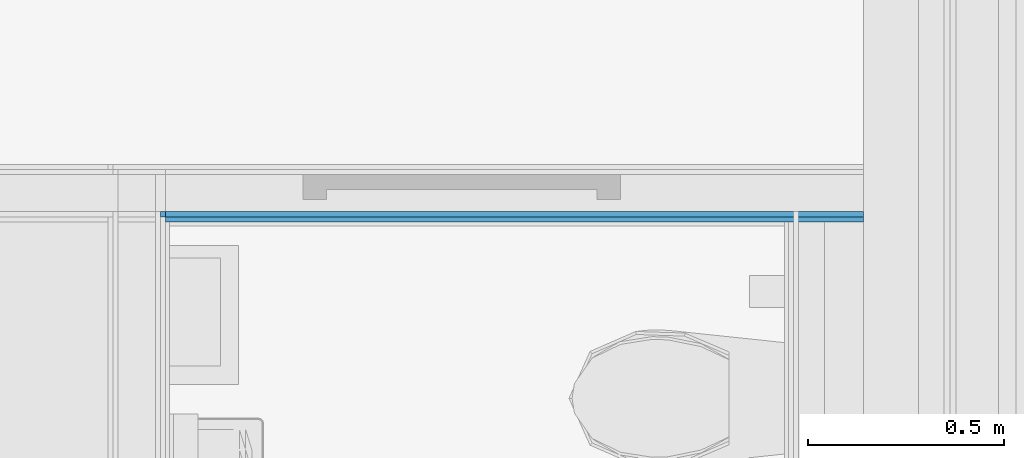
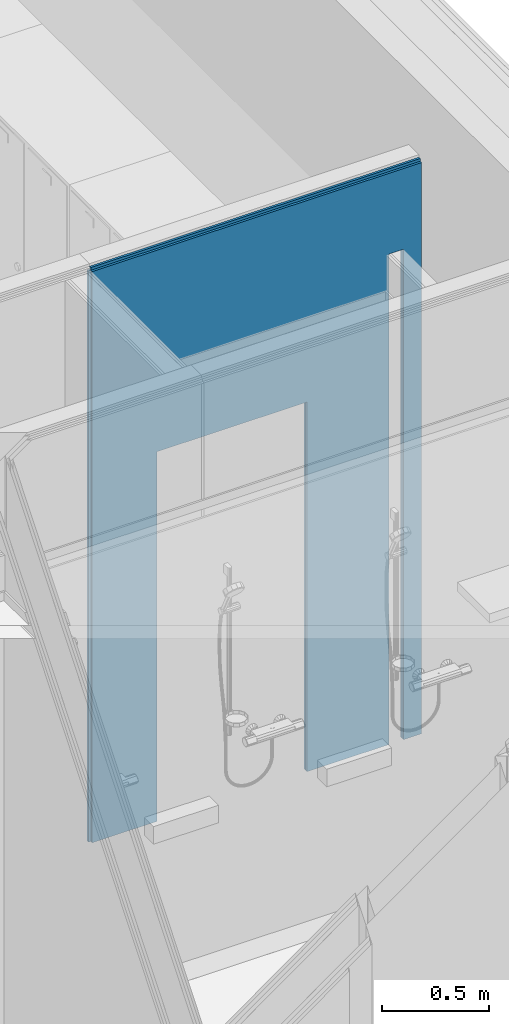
# One storey, part 84 of 153: 2 building element parts, 1 opening, 1 element without a shape of its own.
"""IFC2X3 building model written with IfcOpenShell, lengths in millimetres."""

from ifc_helpers import new_model, entity, si_unit, converted_unit, derived_unit, money_unit, direction, frame, origin_with_axes, place, context, subcontext, project, spatial, faceted_brep, material, type_object, element, aggregate, save


model = new_model("IFC2X3")

# Units and contexts
model_context = context("Model", 3, precision=0.01, world=origin_with_axes(), true_north=direction((0.0, 1.0)))
body_context = subcontext(model_context, "Body", "Model", "MODEL_VIEW")
ifc_project = project(units=[si_unit("LENGTHUNIT", "METRE", prefix="MILLI"), si_unit("AREAUNIT", "SQUARE_METRE"), si_unit("VOLUMEUNIT", "CUBIC_METRE"), converted_unit("PLANEANGLEUNIT", "DEGREE", entity("IfcPlaneAngleMeasure", 0.0174532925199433), si_unit("PLANEANGLEUNIT", "RADIAN"), dimensions=[0, 0, 0, 0, 0, 0, 0]), money_unit("EUR"), converted_unit("TIMEUNIT", "Year", entity("IfcTimeMeasure", 31557600.0), si_unit("TIMEUNIT", "SECOND"), dimensions=[0, 0, 1, 0, 0, 0, 0]), si_unit("MASSUNIT", "GRAM", prefix="KILO"), si_unit("THERMODYNAMICTEMPERATUREUNIT", "DEGREE_CELSIUS"), si_unit("LUMINOUSINTENSITYUNIT", "LUMEN"), si_unit("ENERGYUNIT", "JOULE", prefix="MEGA"), derived_unit("THERMALCONDUCTANCEUNIT", [(si_unit("POWERUNIT", "WATT"), 1), (si_unit("LENGTHUNIT", "METRE"), -1), (si_unit("THERMODYNAMICTEMPERATUREUNIT", "KELVIN"), -1)]), derived_unit("SPECIFICHEATCAPACITYUNIT", [(si_unit("ENERGYUNIT", "JOULE"), 1), (si_unit("MASSUNIT", "GRAM", prefix="KILO"), -1), (si_unit("THERMODYNAMICTEMPERATUREUNIT", "KELVIN"), -1)]), derived_unit("MASSDENSITYUNIT", [(si_unit("MASSUNIT", "GRAM", prefix="KILO"), 1), (si_unit("VOLUMEUNIT", "CUBIC_METRE"), -1)])], contexts=[model_context])

# Site, building, storey
site_placement = place(None, frame((0.0, 0.0, 8650.0), z_axis=(0.0, 0.0, 1.0), x_axis=(1.0, 0.0, 0.0)))
site = spatial("IfcSite", under=ifc_project, at=site_placement, Name="43301:001:0844", CompositionType="ELEMENT")
building_placement = place(site_placement, origin_with_axes())
building = spatial("IfcBuilding", under=site, at=building_placement, Name="Kuressaare Ametikooli tuulikute mehaanikute õppekorpus", CompositionType="ELEMENT")
storey_placement = place(building_placement, frame((0.0, 0.0, 4100.0), z_axis=(0.0, 0.0, 1.0), x_axis=(1.0, 0.0, 0.0)))
storey = spatial("IfcBuildingStorey", under=building, at=storey_placement, Name="2.korrus", CompositionType="ELEMENT", Elevation=4100.0)

# Wall, opening, building element parts
wall_type = type_object("IfcWallType", Name="SS-2.2 147", PredefinedType="NOTDEFINED")
wall_placement = place(storey_placement, frame((131245.1591945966, 21634.06892395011, 0.0), z_axis=(0.0, 0.0, 1.0), x_axis=(1.0, 0.0, 0.0)))
wall = element("IfcWall", 1, at=wall_placement, inside=storey, type_object=wall_type, Name="Sisesein")
opening_placement = place(wall_placement, frame((754.9999999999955, 0.0, 0.0), z_axis=(0.0, 0.0, 1.0), x_axis=(1.0, 0.0, 0.0)))
element("IfcOpeningElement", 2, at=opening_placement, cuts=wall, Name="PU8", context=body_context, shape_type="Brep", body=[
    faceted_brep([(-405.0000000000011, -147.9999999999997, 2110.0), (-405.0000000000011, -147.9999999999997, 0.0), (405.0000000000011, -147.9999999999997, 0.0), (405.0000000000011, -147.9999999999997, 2110.0), (-405.0000000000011, 1.000000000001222, 2110.0), (-405.0000000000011, 1.000000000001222, 0.0), (405.0000000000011, 1.000000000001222, 0.0), (405.0000000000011, 1.000000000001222, 2110.0)], [[[0, 1, 2, 3]], [[4, 5, 1, 0]], [[5, 6, 2, 1]], [[6, 7, 3, 2]], [[7, 4, 0, 3]], [[6, 5, 4, 7]]]),
])
ifc_material = material(Name="Kipsplaat")
building_element_part_1_placement = place(wall_placement, origin_with_axes())
building_element_part_1 = element("IfcBuildingElementPart", 3, at=building_element_part_1_placement, material=ifc_material, Name="Kipsplaat", context=body_context, shape_type="Brep", body=[
    faceted_brep([(349.9999999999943, -120.9999999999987, 2110.0), (349.9999999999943, -120.9999999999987, 0.0), (-13.00000000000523, -120.9999999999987, 0.0), (-13.00000000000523, -120.9999999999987, 3259.999999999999), (0.0, -120.9999999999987, 3259.999999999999), (0.0, -120.9999999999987, 3275.712739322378), (1779.787244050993, -120.9999999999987, 3275.712739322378), (1779.787244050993, -120.9999999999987, 0.0), (1680.787247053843, -120.9999999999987, 0.0), (1680.787247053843, -120.9999999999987, 2799.999999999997), (1601.787247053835, -120.9999999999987, 2799.999999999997), (1601.787247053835, -120.9999999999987, 0.0), (1159.999999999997, -120.9999999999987, 0.0), (1159.999999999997, -120.9999999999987, 2110.0), (349.9999999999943, -134.0000000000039, 2110.0), (349.9999999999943, -134.0000000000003, 0.0), (-13.00000000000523, -134.0000000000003, 0.0), (-13.00000000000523, -134.0000000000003, 3259.999999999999), (0.0, -134.0000000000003, 3259.999999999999), (0.0, -134.0000000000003, 3275.712739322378), (1779.787244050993, -134.0000000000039, 3275.712739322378), (1779.787244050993, -134.0000000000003, 0.0), (1680.787247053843, -134.0000000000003, 0.0), (1680.787247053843, -134.0000000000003, 2799.999999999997), (1601.787247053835, -134.0000000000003, 2799.999999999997), (1601.787247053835, -134.0000000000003, 0.0), (1159.999999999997, -134.0000000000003, 0.0), (1159.999999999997, -134.0000000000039, 2110.0)], [[[0, 1, 2, 3, 4, 5, 6, 7, 8, 9, 10, 11, 12, 13]], [[1, 0, 14, 15]], [[1, 15, 16, 2]], [[17, 3, 2, 16]], [[3, 17, 18, 4]], [[5, 4, 18, 19]], [[6, 5, 19, 20]], [[20, 21, 7, 6]], [[7, 21, 22, 8]], [[9, 8, 22, 23]], [[9, 23, 24, 10]], [[11, 10, 24, 25]], [[26, 12, 11, 25]], [[13, 12, 26, 27]], [[0, 13, 27, 14]], [[27, 26, 25, 24, 23, 22, 21, 20, 19, 18, 17, 16, 15, 14]]]),
])
building_element_part_2_placement = place(wall_placement, origin_with_axes())
building_element_part_2 = element("IfcBuildingElementPart", 4, at=building_element_part_2_placement, material=ifc_material, Name="Kipsplaat", context=body_context, shape_type="Brep", body=[
    faceted_brep([(349.9999999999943, -134.0000000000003, 2110.0), (349.9999999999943, -134.0000000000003, 0.0), (0.0, -134.0000000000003, 0.0), (0.0, -134.0000000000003, 3259.999999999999), (0.0, -134.0000000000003, 3260.712739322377), (1779.787244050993, -134.0000000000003, 3260.712739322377), (1779.787244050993, -134.0000000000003, 0.0), (1680.787247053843, -134.0000000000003, 0.0), (1680.787247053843, -134.0000000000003, 2799.999999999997), (1601.787247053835, -134.0000000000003, 2799.999999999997), (1601.787247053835, -134.0000000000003, 0.0), (1159.999999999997, -134.0000000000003, 0.0), (1159.999999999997, -134.0000000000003, 2110.0), (349.9999999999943, -146.9999999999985, 2110.0), (349.9999999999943, -146.9999999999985, 0.0), (0.0, -146.9999999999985, 0.0), (0.0, -146.9999999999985, 3259.999999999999), (0.0, -146.9999999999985, 3260.712739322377), (1779.787244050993, -146.9999999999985, 3260.712739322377), (1779.787244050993, -146.9999999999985, 0.0), (1680.787247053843, -146.9999999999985, 0.0), (1680.787247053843, -146.9999999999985, 2799.999999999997), (1601.787247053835, -146.9999999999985, 2799.999999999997), (1601.787247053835, -146.9999999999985, 0.0), (1159.999999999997, -146.9999999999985, 0.0), (1159.999999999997, -146.9999999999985, 2110.0)], [[[0, 1, 2, 3, 4, 5, 6, 7, 8, 9, 10, 11, 12]], [[1, 0, 13, 14]], [[1, 14, 15, 2]], [[16, 3, 2, 15]], [[4, 3, 16, 17]], [[5, 4, 17, 18]], [[18, 19, 6, 5]], [[6, 19, 20, 7]], [[8, 7, 20, 21]], [[8, 21, 22, 9]], [[10, 9, 22, 23]], [[24, 11, 10, 23]], [[12, 11, 24, 25]], [[0, 12, 25, 13]], [[25, 24, 23, 22, 21, 20, 19, 18, 17, 16, 15, 14, 13]]]),
])
aggregate(wall, [building_element_part_1, building_element_part_2])

save(model, "model.ifc")
